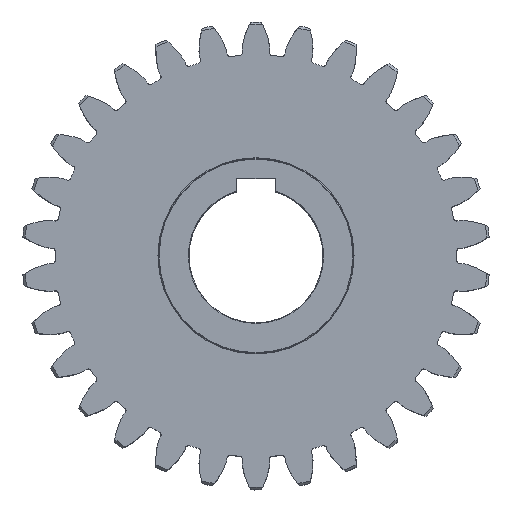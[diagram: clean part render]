
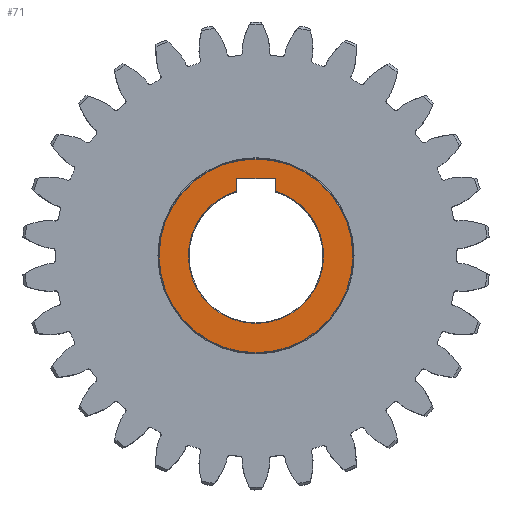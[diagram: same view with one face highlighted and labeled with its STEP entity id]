
A CAD part, top view. The second image highlights one B-rep face of the part: STEP entity #71.
In plain terms, the highlighted planar face has unit normal (0, 0, 1).
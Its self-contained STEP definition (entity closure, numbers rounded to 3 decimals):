
#71 = ADVANCED_FACE ( 'NONE', ( #10319, #4250 ), #16625, .T. ) ;
#638 = EDGE_CURVE ( 'NONE', #8103, #2186, #990, .T. ) ;
#990 = CIRCLE ( 'NONE', #17480, 27.75 ) ;
#1021 = EDGE_CURVE ( 'NONE', #18726, #11533, #8675, .T. ) ;
#1312 = AXIS2_PLACEMENT_3D ( 'NONE', #15275, #2297, #16831 ) ;
#1396 = AXIS2_PLACEMENT_3D ( 'NONE', #19383, #2252, #9756 ) ;
#1762 = VERTEX_POINT ( 'NONE', #7388 ) ;
#2186 = VERTEX_POINT ( 'NONE', #5698 ) ;
#2252 = DIRECTION ( 'NONE',  ( 0., 0., 1. ) ) ;
#2297 = DIRECTION ( 'NONE',  ( 0., 0., 1. ) ) ;
#2524 = EDGE_CURVE ( 'NONE', #1762, #14587, #6542, .T. ) ;
#2584 = DIRECTION ( 'NONE',  ( 1., 0., 0. ) ) ;
#3730 = DIRECTION ( 'NONE',  ( 0., 0., -1. ) ) ;
#4250 = FACE_BOUND ( 'NONE', #16640, .T. ) ;
#4403 = LINE ( 'NONE', #12524, #5778 ) ;
#4762 = CARTESIAN_POINT ( 'NONE',  ( -27.75, 0., 35. ) ) ;
#5472 = CARTESIAN_POINT ( 'NONE',  ( 0., 0., 35. ) ) ;
#5660 = ORIENTED_EDGE ( 'NONE', *, *, #1021, .T. ) ;
#5675 = CARTESIAN_POINT ( 'NONE',  ( 0., 0., 35. ) ) ;
#5698 = CARTESIAN_POINT ( 'NONE',  ( 27.75, 0., 35. ) ) ;
#5778 = VECTOR ( 'NONE', #17290, 1000. ) ;
#5997 = CARTESIAN_POINT ( 'NONE',  ( 0., 0., 35. ) ) ;
#6542 = CIRCLE ( 'NONE', #19735, 39.75 ) ;
#7128 = CARTESIAN_POINT ( 'NONE',  ( 8., 31.8, 35. ) ) ;
#7388 = CARTESIAN_POINT ( 'NONE',  ( -39.75, 0., 35. ) ) ;
#7641 = EDGE_CURVE ( 'NONE', #14587, #1762, #14254, .T. ) ;
#7952 = ORIENTED_EDGE ( 'NONE', *, *, #13395, .T. ) ;
#8103 = VERTEX_POINT ( 'NONE', #20166 ) ;
#8154 = EDGE_CURVE ( 'NONE', #18861, #18726, #11475, .T. ) ;
#8466 = VERTEX_POINT ( 'NONE', #4762 ) ;
#8675 = LINE ( 'NONE', #7128, #13520 ) ;
#8814 = ORIENTED_EDGE ( 'NONE', *, *, #17312, .T. ) ;
#9756 = DIRECTION ( 'NONE',  ( 1., 0., 0. ) ) ;
#10319 = FACE_OUTER_BOUND ( 'NONE', #13892, .T. ) ;
#10409 = DIRECTION ( 'NONE',  ( 0., 0., 1. ) ) ;
#10421 = VECTOR ( 'NONE', #17682, 1000. ) ;
#10874 = CARTESIAN_POINT ( 'NONE',  ( -8., 26.572, 35. ) ) ;
#11475 = LINE ( 'NONE', #12607, #10421 ) ;
#11518 = CARTESIAN_POINT ( 'NONE',  ( -8., 31.8, 35. ) ) ;
#11533 = VERTEX_POINT ( 'NONE', #14648 ) ;
#12524 = CARTESIAN_POINT ( 'NONE',  ( 8., 23.2, 35. ) ) ;
#12607 = CARTESIAN_POINT ( 'NONE',  ( -8., 23.2, 35. ) ) ;
#12709 = CARTESIAN_POINT ( 'NONE',  ( 0., 0., 35. ) ) ;
#13395 = EDGE_CURVE ( 'NONE', #11533, #8103, #4403, .T. ) ;
#13520 = VECTOR ( 'NONE', #13528, 1000. ) ;
#13528 = DIRECTION ( 'NONE',  ( 1., 0., 0. ) ) ;
#13892 = EDGE_LOOP ( 'NONE', ( #16756, #19415 ) ) ;
#13957 = DIRECTION ( 'NONE',  ( 1., 0., 0. ) ) ;
#14026 = CIRCLE ( 'NONE', #16675, 27.75 ) ;
#14130 = ORIENTED_EDGE ( 'NONE', *, *, #8154, .T. ) ;
#14158 = EDGE_CURVE ( 'NONE', #2186, #8466, #15676, .T. ) ;
#14254 = CIRCLE ( 'NONE', #1396, 39.75 ) ;
#14587 = VERTEX_POINT ( 'NONE', #15035 ) ;
#14648 = CARTESIAN_POINT ( 'NONE',  ( 8., 31.8, 35. ) ) ;
#14699 = AXIS2_PLACEMENT_3D ( 'NONE', #5472, #3730, #16303 ) ;
#15035 = CARTESIAN_POINT ( 'NONE',  ( 39.75, 0., 35. ) ) ;
#15275 = CARTESIAN_POINT ( 'NONE',  ( 0., 0., 35. ) ) ;
#15381 = DIRECTION ( 'NONE',  ( 0., 0., -1. ) ) ;
#15676 = CIRCLE ( 'NONE', #14699, 27.75 ) ;
#16161 = ORIENTED_EDGE ( 'NONE', *, *, #638, .T. ) ;
#16303 = DIRECTION ( 'NONE',  ( 1., 0., 0. ) ) ;
#16625 = PLANE ( 'NONE',  #1312 ) ;
#16640 = EDGE_LOOP ( 'NONE', ( #7952, #16161, #18310, #8814, #14130, #5660 ) ) ;
#16675 = AXIS2_PLACEMENT_3D ( 'NONE', #5997, #15381, #17347 ) ;
#16756 = ORIENTED_EDGE ( 'NONE', *, *, #2524, .T. ) ;
#16831 = DIRECTION ( 'NONE',  ( 1., 0., 0. ) ) ;
#17290 = DIRECTION ( 'NONE',  ( 0., -1., 0. ) ) ;
#17312 = EDGE_CURVE ( 'NONE', #8466, #18861, #14026, .T. ) ;
#17347 = DIRECTION ( 'NONE',  ( 1., 0., 0. ) ) ;
#17480 = AXIS2_PLACEMENT_3D ( 'NONE', #12709, #19022, #13957 ) ;
#17682 = DIRECTION ( 'NONE',  ( 0., 1., 0. ) ) ;
#18310 = ORIENTED_EDGE ( 'NONE', *, *, #14158, .T. ) ;
#18726 = VERTEX_POINT ( 'NONE', #11518 ) ;
#18861 = VERTEX_POINT ( 'NONE', #10874 ) ;
#19022 = DIRECTION ( 'NONE',  ( 0., 0., -1. ) ) ;
#19383 = CARTESIAN_POINT ( 'NONE',  ( 0., 0., 35. ) ) ;
#19415 = ORIENTED_EDGE ( 'NONE', *, *, #7641, .T. ) ;
#19735 = AXIS2_PLACEMENT_3D ( 'NONE', #5675, #10409, #2584 ) ;
#20166 = CARTESIAN_POINT ( 'NONE',  ( 8., 26.572, 35. ) ) ;
